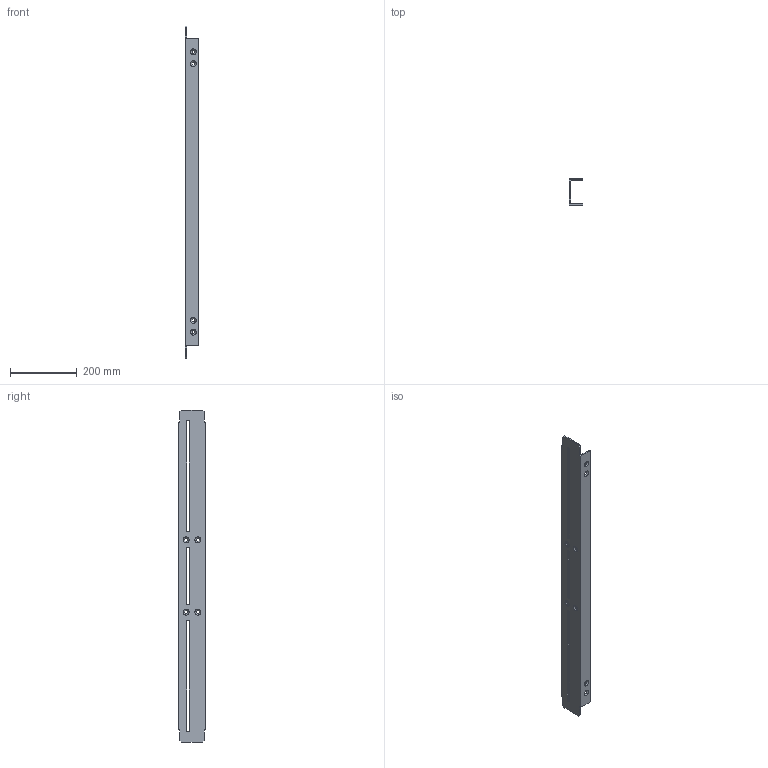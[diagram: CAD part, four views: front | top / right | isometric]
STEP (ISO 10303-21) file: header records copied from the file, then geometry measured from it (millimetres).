
FILE_DESCRIPTION (( 'STEP AP214' ), '1' );
FILE_NAME ('ÂØÀÅ.746222.008 Øâåëëåð.STEP', '2024-04-17T13:45:47', ( '' ), ( '' ), 'SwSTEP 2.0', 'SolidWorks 2019', '' );
FILE_SCHEMA (( 'AUTOMOTIVE_DESIGN' ));
Length unit declared in the file: millimetre
Products named in the file (1): ÂØÀÅ.746222.008 Øâåëëåð
Bounding box: 40 x 80 x 992 mm (x, y, z)
Volume: 554041.1 mm3; surface area: 287317 mm2
Topology: 1 solids, 1 shells, 75 faces, 219 edges, 146 vertices
Faces by surface type: plane 28, cylinder 27, cone 20
Entity records: 2645 total; most frequent: DIRECTION 465, CARTESIAN_POINT 441, ORIENTED_EDGE 438, EDGE_CURVE 219, AXIS2_PLACEMENT_3D 170, VERTEX_POINT 146, VECTOR 125, LINE 125
